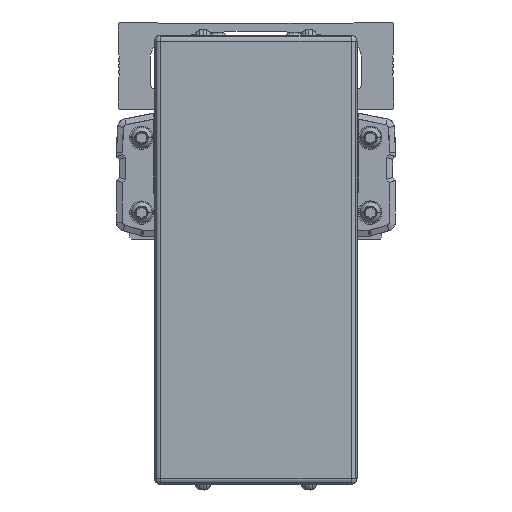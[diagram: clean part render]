
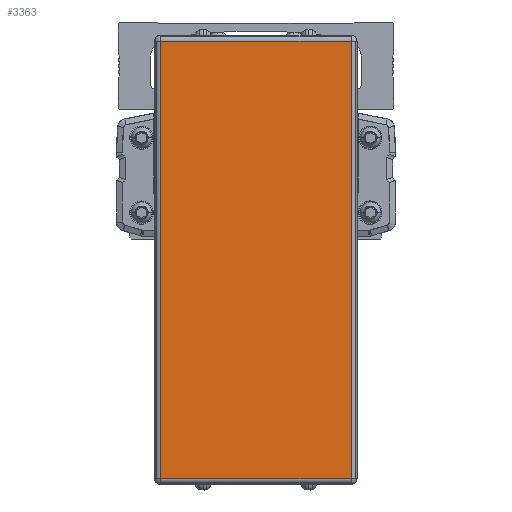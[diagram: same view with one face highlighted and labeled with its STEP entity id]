
A CAD part, front view. The second image highlights one B-rep face of the part: STEP entity #3363.
In plain terms, the highlighted planar face has unit normal (0, -1, 0).
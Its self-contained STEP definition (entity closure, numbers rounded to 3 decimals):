
#3363=ADVANCED_FACE('',(#8164),#8165,.T.);
#8164=FACE_OUTER_BOUND('',#14747,.T.);
#8165=PLANE('',#14748);
#14747=EDGE_LOOP('',(#25683,#25684,#25685,#25686));
#14748=AXIS2_PLACEMENT_3D('',#25687,#25688,#25689);
#25683=ORIENTED_EDGE('',*,*,#42717,.F.);
#25684=ORIENTED_EDGE('',*,*,#40424,.F.);
#25685=ORIENTED_EDGE('',*,*,#41722,.F.);
#25686=ORIENTED_EDGE('',*,*,#41605,.F.);
#25687=CARTESIAN_POINT('',(0.,-139.778,-50.1));
#25688=DIRECTION('',(0.0,-1.0,0.));
#25689=DIRECTION('',(1.0,0.0,0.0));
#40424=EDGE_CURVE('',#48236,#48238,#48239,.T.);
#41605=EDGE_CURVE('',#50314,#50316,#50317,.T.);
#41722=EDGE_CURVE('',#50316,#48236,#50516,.T.);
#42717=EDGE_CURVE('',#48238,#50314,#52134,.T.);
#48236=VERTEX_POINT('',#59542);
#48238=VERTEX_POINT('',#59544);
#48239=LINE('',#59545,#59546);
#50314=VERTEX_POINT('',#62462);
#50316=VERTEX_POINT('',#62464);
#50317=LINE('',#62465,#62466);
#50516=LINE('',#62758,#62759);
#52134=LINE('',#65045,#65046);
#59542=CARTESIAN_POINT('',(-32.5,-139.778,24.5));
#59544=CARTESIAN_POINT('',(32.5,-139.778,24.5));
#59545=CARTESIAN_POINT('',(0.,-139.778,24.5));
#59546=VECTOR('',#75059,10.0);
#62462=CARTESIAN_POINT('',(32.5,-139.778,-124.7));
#62464=CARTESIAN_POINT('',(-32.5,-139.778,-124.7));
#62465=CARTESIAN_POINT('',(0.,-139.778,-124.7));
#62466=VECTOR('',#76806,10.0);
#62758=CARTESIAN_POINT('',(-32.5,-139.778,-50.1));
#62759=VECTOR('',#76933,10.0);
#65045=CARTESIAN_POINT('',(32.5,-139.778,-50.1));
#65046=VECTOR('',#78198,10.0);
#75059=DIRECTION('',(1.0,0.0,0.0));
#76806=DIRECTION('',(-1.0,0.0,0.0));
#76933=DIRECTION('',(0.0,0.,1.0));
#78198=DIRECTION('',(0.0,0.,-1.0));
